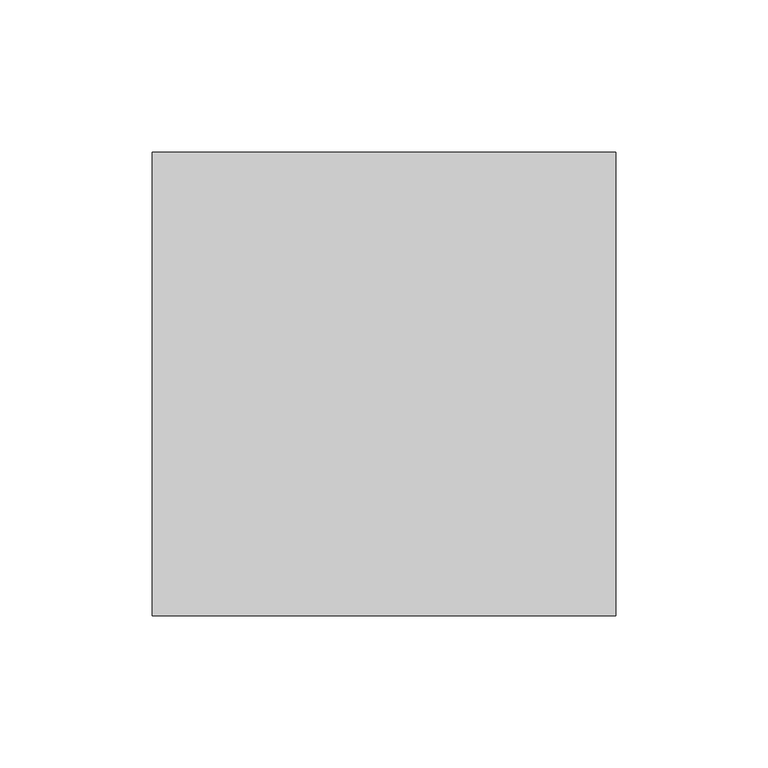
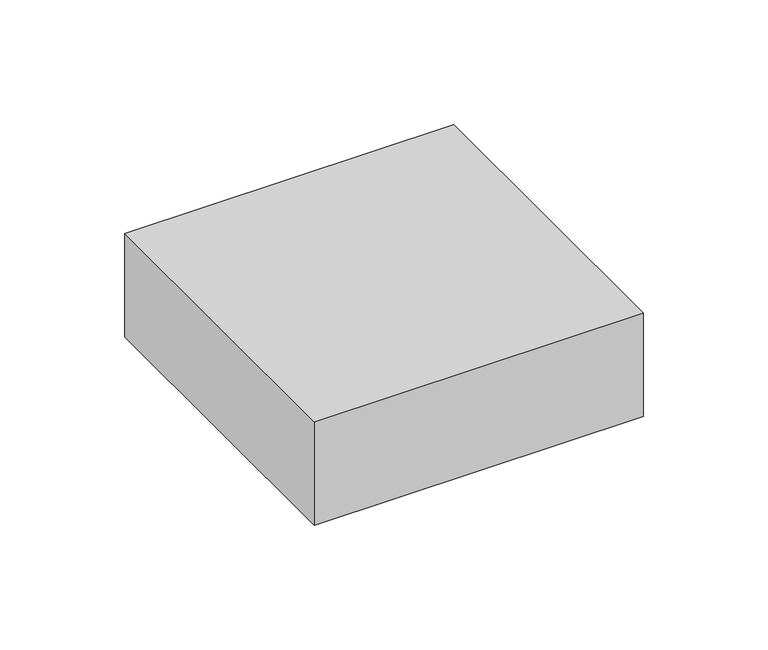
"""IFC4 building model written with IfcOpenShell, lengths in millimetres: proxy geometry, Wall  Protrusion : Wall  Protrusion."""

from ifc_helpers import new_model, si_unit, origin, origin_with_axes, place, context, project, spatial, polyline, outline, extrude, source, transform, mapped, element, save


def generic_models_349eb45a(model_context):
    return source(origin(), model_context, "Body", "SweptSolid", [
        extrude(outline(polyline([(76.2, 76.2), (76.2, -76.2), (-76.2, -76.2), (-76.2, 76.2), (76.2, 76.2)])), origin_with_axes(), (0.0, 0.0, 1.0), 50.8),
    ])


if __name__ == "__main__":
    model = new_model("IFC4")
    model_context = context("Model", 3, world=origin())
    ifc_project = project(units=[si_unit("LENGTHUNIT", "METRE", prefix="MILLI")], contexts=[model_context])
    site = spatial("IfcSite", under=ifc_project)
    building = spatial("IfcBuilding", under=site)
    placement = place(None, origin())
    generic_models_shape = generic_models_349eb45a(model_context)
    element("IfcBuildingElementProxy", 1, Name="Wall  Protrusion : Wall  Protrusion", ObjectType="Wall  Protrusion : Wall  Protrusion", at=placement, inside=building, context=model_context, shape_type="MappedRepresentation", body=[
        mapped(generic_models_shape, transform((0.0, 0.0, 0.0), x_axis=(1.0, 0.0, 0.0), y_axis=(0.0, 1.0, 0.0), z_axis=(0.0, 0.0, 1.0))),
    ])
    save(model, "model.ifc")
